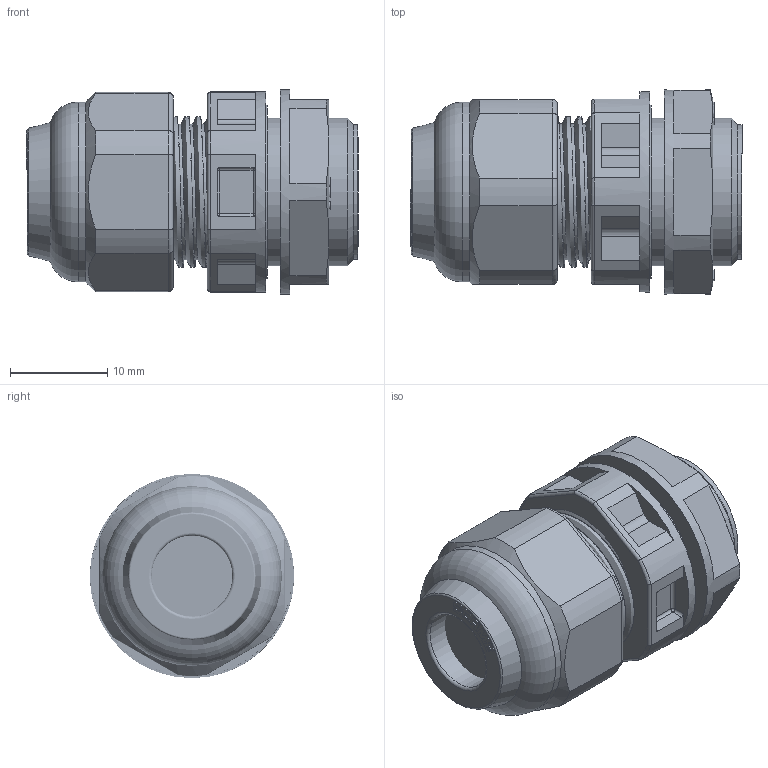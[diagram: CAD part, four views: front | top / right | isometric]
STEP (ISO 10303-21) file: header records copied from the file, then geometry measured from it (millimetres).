
FILE_DESCRIPTION(/* description */ (''),/* implementation_level */ '2;1');
FILE_NAME(/* name */ '4004532.stp',/* time_stamp */ '2019-03-01T15:12:32+01:00',/* author */ (''),/* organization */ (''),/* preprocessor_version */ 'ST-DEVELOPER v16.7',/* originating_system */ 'SIEMENS PLM Software NX 12.0',/* authorisation */ '');
FILE_SCHEMA (('AUTOMOTIVE_DESIGN { 1 0 10303 214 3 1 1 1 }'));
Length unit declared in the file: millimetre
Products named in the file (1): bsom23CC53FBps5h
Bounding box: 34.15 x 21 x 21 mm (x, y, z)
Volume: 6076.9 mm3; surface area: 7304.7 mm2
Topology: 4 solids, 4 shells, 507 faces, 1352 edges, 876 vertices
Faces by surface type: plane 274, cylinder 91, extrusion 66, cone 34, bspline 18, torus 16, sphere 8
Full cylindrical faces by diameter (mm): 7.5 x1, 8.3 x1, 9 x1, 10.7 x1, 10.8 x1, 13.86 x2, 14 x7, 14.3 x1, 15.2 x1, 16.2 x1, 16.7 x1, 18.5 x1, 20.6 x1, 21 x1
Entity records: 31311 total; most frequent: CARTESIAN_POINT 19620, ORIENTED_EDGE 2548, DIRECTION 2076, EDGE_CURVE 1274, VERTEX_POINT 851, VECTOR 738, LINE 672, AXIS2_PLACEMENT_3D 669
